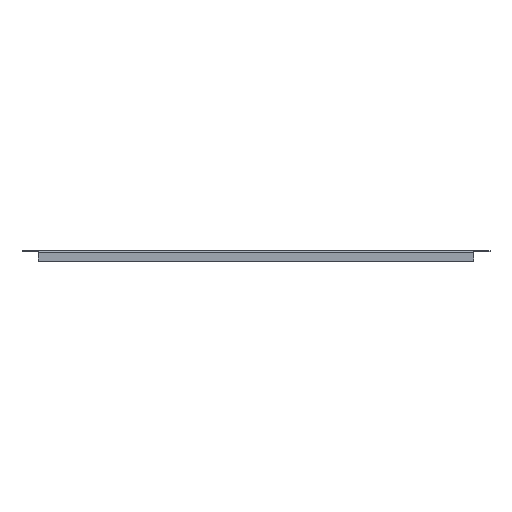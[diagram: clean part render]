
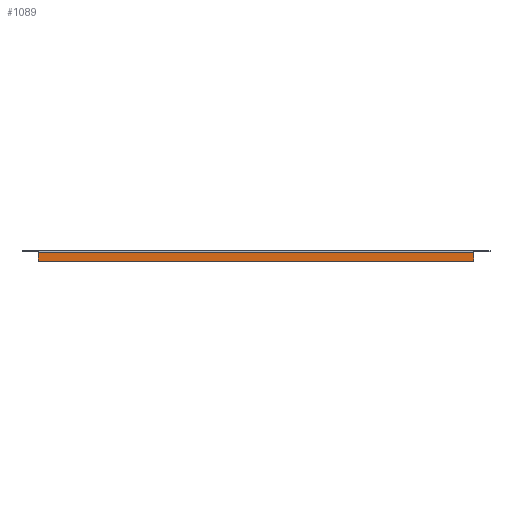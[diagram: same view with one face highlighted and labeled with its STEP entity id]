
A CAD part, front view. The second image highlights one B-rep face of the part: STEP entity #1089.
In plain terms, the highlighted planar face has unit normal (0, -1, 0).
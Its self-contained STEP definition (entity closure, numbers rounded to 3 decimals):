
#130 = VECTOR ( 'NONE', #540, 1000. ) ;
#177 = FACE_OUTER_BOUND ( 'NONE', #758, .T. ) ;
#181 = AXIS2_PLACEMENT_3D ( 'NONE', #446, #445, #444 ) ;
#187 = VECTOR ( 'NONE', #433, 1000. ) ;
#198 = VECTOR ( 'NONE', #381, 1000. ) ;
#200 = VECTOR ( 'NONE', #378, 1000. ) ;
#378 = DIRECTION ( 'NONE',  ( 0., 0., 1. ) ) ;
#379 = CARTESIAN_POINT ( 'NONE',  ( -309.5, -74.5, -13.8 ) ) ;
#380 = LINE ( 'NONE', #379, #200 ) ;
#381 = DIRECTION ( 'NONE',  ( 1., 0., 0. ) ) ;
#382 = CARTESIAN_POINT ( 'NONE',  ( 309.5, -74.5, -1.2 ) ) ;
#384 = LINE ( 'NONE', #382, #198 ) ;
#433 = DIRECTION ( 'NONE',  ( -1., 0., 0. ) ) ;
#434 = CARTESIAN_POINT ( 'NONE',  ( 309.5, -74.5, -13.8 ) ) ;
#435 = LINE ( 'NONE', #434, #187 ) ;
#444 = DIRECTION ( 'NONE',  ( 0., 0., 1. ) ) ;
#445 = DIRECTION ( 'NONE',  ( 0., 1., 0. ) ) ;
#446 = CARTESIAN_POINT ( 'NONE',  ( 309.5, -74.5, 0. ) ) ;
#447 = PLANE ( 'NONE',  #181 ) ;
#540 = DIRECTION ( 'NONE',  ( 0., 0., -1. ) ) ;
#541 = CARTESIAN_POINT ( 'NONE',  ( 309.5, -74.5, 0. ) ) ;
#542 = LINE ( 'NONE', #541, #130 ) ;
#637 = CARTESIAN_POINT ( 'NONE',  ( -309.5, -74.5, -13.8 ) ) ;
#689 = CARTESIAN_POINT ( 'NONE',  ( 309.5, -74.5, -1.2 ) ) ;
#710 = CARTESIAN_POINT ( 'NONE',  ( -309.5, -74.5, -1.2 ) ) ;
#717 = CARTESIAN_POINT ( 'NONE',  ( 309.5, -74.5, -13.8 ) ) ;
#758 = EDGE_LOOP ( 'NONE', ( #995, #972, #971, #969 ) ) ;
#768 = VERTEX_POINT ( 'NONE', #637 ) ;
#769 = VERTEX_POINT ( 'NONE', #717 ) ;
#771 = VERTEX_POINT ( 'NONE', #710 ) ;
#774 = VERTEX_POINT ( 'NONE', #689 ) ;
#969 = ORIENTED_EDGE ( 'NONE', *, *, #1056, .F. ) ;
#971 = ORIENTED_EDGE ( 'NONE', *, *, #1092, .F. ) ;
#972 = ORIENTED_EDGE ( 'NONE', *, *, #1119, .F. ) ;
#995 = ORIENTED_EDGE ( 'NONE', *, *, #1118, .F. ) ;
#1056 = EDGE_CURVE ( 'NONE', #774, #769, #542, .T. ) ;
#1089 = ADVANCED_FACE ( 'NONE', ( #177 ), #447, .F. ) ;
#1092 = EDGE_CURVE ( 'NONE', #769, #768, #435, .T. ) ;
#1118 = EDGE_CURVE ( 'NONE', #771, #774, #384, .T. ) ;
#1119 = EDGE_CURVE ( 'NONE', #768, #771, #380, .T. ) ;
